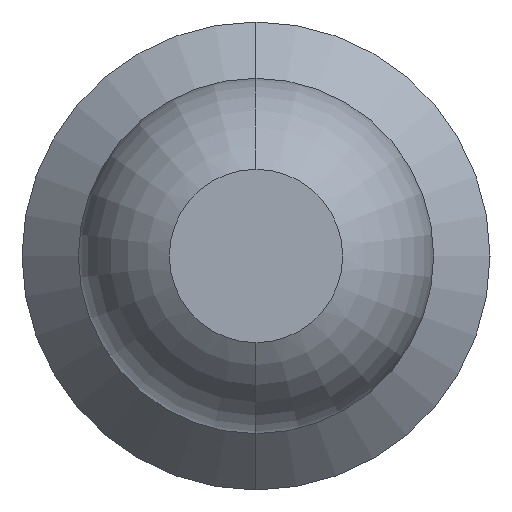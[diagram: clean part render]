
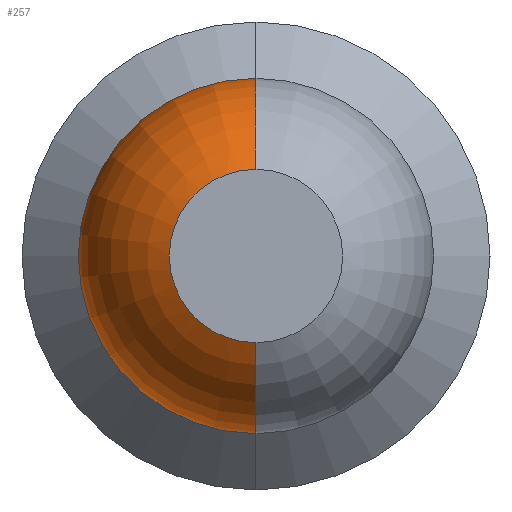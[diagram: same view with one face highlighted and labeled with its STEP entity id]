
A CAD part, left-side view. The second image highlights one B-rep face of the part: STEP entity #257.
In plain terms, the highlighted toroidal (fillet/blend) face has major radius 0.006 mm and minor radius 0.254 mm.
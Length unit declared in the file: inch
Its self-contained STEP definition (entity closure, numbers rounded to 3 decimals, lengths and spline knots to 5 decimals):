
#13 = EDGE_CURVE ( 'NONE', #508, #448, #463, .T. ) ;
#40 = CARTESIAN_POINT ( 'NONE',  ( 0.0088, 0., 0. ) ) ;
#67 = ORIENTED_EDGE ( 'NONE', *, *, #171, .T. ) ;
#83 = DIRECTION ( 'NONE',  ( 0., 1., 0. ) ) ;
#91 = DIRECTION ( 'NONE',  ( -1., 0., 0. ) ) ;
#110 = AXIS2_PLACEMENT_3D ( 'NONE', #218, #336, #399 ) ;
#115 = ORIENTED_EDGE ( 'NONE', *, *, #540, .F. ) ;
#142 = DIRECTION ( 'NONE',  ( 0., 0., 1. ) ) ;
#156 = CIRCLE ( 'NONE', #535, 0.01025 ) ;
#166 = CARTESIAN_POINT ( 'NONE',  ( 0., 0., 0.005 ) ) ;
#168 = DIRECTION ( 'NONE',  ( 0., 0., 1. ) ) ;
#171 = EDGE_CURVE ( 'NONE', #508, #512, #156, .T. ) ;
#176 = CIRCLE ( 'NONE', #244, 0.01 ) ;
#198 = DIRECTION ( 'NONE',  ( 0., 0., 1. ) ) ;
#202 = EDGE_CURVE ( 'NONE', #512, #234, #176, .T. ) ;
#218 = CARTESIAN_POINT ( 'NONE',  ( 0.0088, 0., 0.00025 ) ) ;
#234 = VERTEX_POINT ( 'NONE', #411 ) ;
#244 = AXIS2_PLACEMENT_3D ( 'NONE', #254, #83, #198 ) ;
#253 = CIRCLE ( 'NONE', #434, 0.005 ) ;
#254 = CARTESIAN_POINT ( 'NONE',  ( 0.0088, 0., -0.00025 ) ) ;
#257 = ADVANCED_FACE ( 'NONE', ( #582 ), #583, .T. ) ;
#282 = DIRECTION ( 'NONE',  ( -1., 0., 0. ) ) ;
#283 = ORIENTED_EDGE ( 'NONE', *, *, #202, .T. ) ;
#308 = DIRECTION ( 'NONE',  ( -1., 0., 0. ) ) ;
#311 = DIRECTION ( 'NONE',  ( 0., 0., 1. ) ) ;
#336 = DIRECTION ( 'NONE',  ( 0., -1., 0. ) ) ;
#383 = CARTESIAN_POINT ( 'NONE',  ( 0., 0., 0. ) ) ;
#399 = DIRECTION ( 'NONE',  ( 0., 0., -1. ) ) ;
#411 = CARTESIAN_POINT ( 'NONE',  ( 0., 0., -0.005 ) ) ;
#434 = AXIS2_PLACEMENT_3D ( 'NONE', #383, #282, #168 ) ;
#448 = VERTEX_POINT ( 'NONE', #166 ) ;
#463 = CIRCLE ( 'NONE', #110, 0.01 ) ;
#508 = VERTEX_POINT ( 'NONE', #606 ) ;
#512 = VERTEX_POINT ( 'NONE', #562 ) ;
#535 = AXIS2_PLACEMENT_3D ( 'NONE', #701, #91, #311 ) ;
#540 = EDGE_CURVE ( 'NONE', #448, #234, #253, .T. ) ;
#562 = CARTESIAN_POINT ( 'NONE',  ( 0.0088, 0., -0.01025 ) ) ;
#582 = FACE_OUTER_BOUND ( 'NONE', #626, .T. ) ;
#583 = TOROIDAL_SURFACE ( 'NONE', #696, 0.00025, 0.01 ) ;
#606 = CARTESIAN_POINT ( 'NONE',  ( 0.0088, 0., 0.01025 ) ) ;
#626 = EDGE_LOOP ( 'NONE', ( #67, #283, #115, #658 ) ) ;
#658 = ORIENTED_EDGE ( 'NONE', *, *, #13, .F. ) ;
#696 = AXIS2_PLACEMENT_3D ( 'NONE', #40, #308, #142 ) ;
#701 = CARTESIAN_POINT ( 'NONE',  ( 0.0088, 0., 0. ) ) ;
